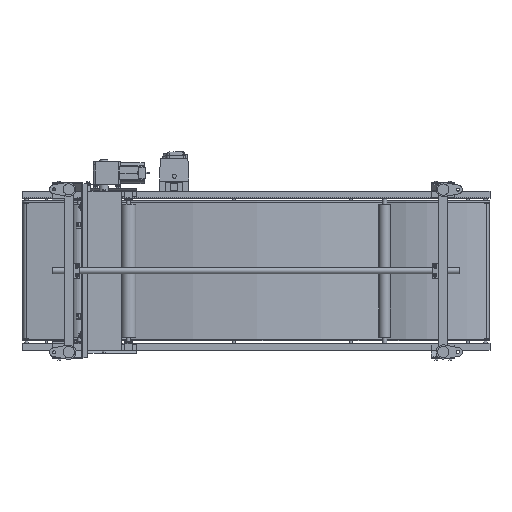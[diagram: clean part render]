
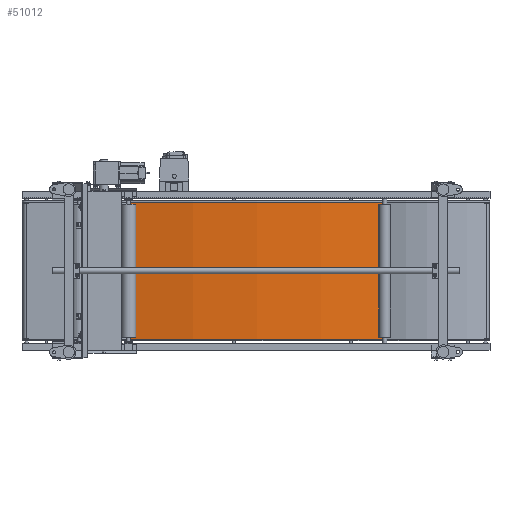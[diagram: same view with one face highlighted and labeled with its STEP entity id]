
A CAD part, front view. The second image highlights one B-rep face of the part: STEP entity #51012.
In plain terms, the highlighted cylindrical face has radius 2250 mm (diameter 4500 mm), a partial arc.
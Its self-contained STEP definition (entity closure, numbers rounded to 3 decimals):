
#1814 = VECTOR ( 'NONE', #47072, 1000. ) ;
#3502 = EDGE_CURVE ( 'NONE', #54298, #26758, #34593, .T. ) ;
#4716 = AXIS2_PLACEMENT_3D ( 'NONE', #25043, #7968, #7787 ) ;
#4828 = ORIENTED_EDGE ( 'NONE', *, *, #3502, .F. ) ;
#7145 = VECTOR ( 'NONE', #47158, 1000. ) ;
#7787 = DIRECTION ( 'NONE',  ( 0.26, -0.966, 0. ) ) ;
#7968 = DIRECTION ( 'NONE',  ( 0., 0., -1. ) ) ;
#11931 = DIRECTION ( 'NONE',  ( 0., 0., -1. ) ) ;
#13054 = FACE_OUTER_BOUND ( 'NONE', #45762, .T. ) ;
#22418 = LINE ( 'NONE', #51692, #1814 ) ;
#25043 = CARTESIAN_POINT ( 'NONE',  ( 958.431, 2140.777, 293.5 ) ) ;
#25555 = DIRECTION ( 'NONE',  ( -1., 0., 0. ) ) ;
#26524 = EDGE_CURVE ( 'NONE', #36084, #54298, #46307, .T. ) ;
#26758 = VERTEX_POINT ( 'NONE', #46234 ) ;
#27680 = VERTEX_POINT ( 'NONE', #53810 ) ;
#29288 = CARTESIAN_POINT ( 'NONE',  ( 1543.242, -31.894, 300. ) ) ;
#29474 = AXIS2_PLACEMENT_3D ( 'NONE', #51293, #29579, #25555 ) ;
#29579 = DIRECTION ( 'NONE',  ( 0., 0., -1. ) ) ;
#30617 = EDGE_CURVE ( 'NONE', #27680, #26758, #22418, .T. ) ;
#33445 = ORIENTED_EDGE ( 'NONE', *, *, #49004, .T. ) ;
#33540 = ORIENTED_EDGE ( 'NONE', *, *, #30617, .T. ) ;
#34340 = CARTESIAN_POINT ( 'NONE',  ( 958.431, 2140.777, -293.5 ) ) ;
#34593 = CIRCLE ( 'NONE', #38851, 2250. ) ;
#36084 = VERTEX_POINT ( 'NONE', #53639 ) ;
#38386 = CYLINDRICAL_SURFACE ( 'NONE', #29474, 2250. ) ;
#38851 = AXIS2_PLACEMENT_3D ( 'NONE', #34340, #11931, #47039 ) ;
#41927 = ORIENTED_EDGE ( 'NONE', *, *, #26524, .F. ) ;
#45762 = EDGE_LOOP ( 'NONE', ( #33540, #4828, #41927, #33445 ) ) ;
#46234 = CARTESIAN_POINT ( 'NONE',  ( 462.06, -53.788, -293.5 ) ) ;
#46307 = LINE ( 'NONE', #29288, #7145 ) ;
#46633 = CIRCLE ( 'NONE', #4716, 2250. ) ;
#47039 = DIRECTION ( 'NONE',  ( 0.26, -0.966, 0. ) ) ;
#47072 = DIRECTION ( 'NONE',  ( 0., 0., -1. ) ) ;
#47158 = DIRECTION ( 'NONE',  ( 0., 0., -1. ) ) ;
#48113 = CARTESIAN_POINT ( 'NONE',  ( 1543.242, -31.894, -293.5 ) ) ;
#49004 = EDGE_CURVE ( 'NONE', #36084, #27680, #46633, .T. ) ;
#51012 = ADVANCED_FACE ( 'NONE', ( #13054 ), #38386, .T. ) ;
#51293 = CARTESIAN_POINT ( 'NONE',  ( 958.431, 2140.777, 300. ) ) ;
#51692 = CARTESIAN_POINT ( 'NONE',  ( 462.06, -53.788, 300. ) ) ;
#53639 = CARTESIAN_POINT ( 'NONE',  ( 1543.242, -31.894, 293.5 ) ) ;
#53810 = CARTESIAN_POINT ( 'NONE',  ( 462.06, -53.788, 293.5 ) ) ;
#54298 = VERTEX_POINT ( 'NONE', #48113 ) ;
